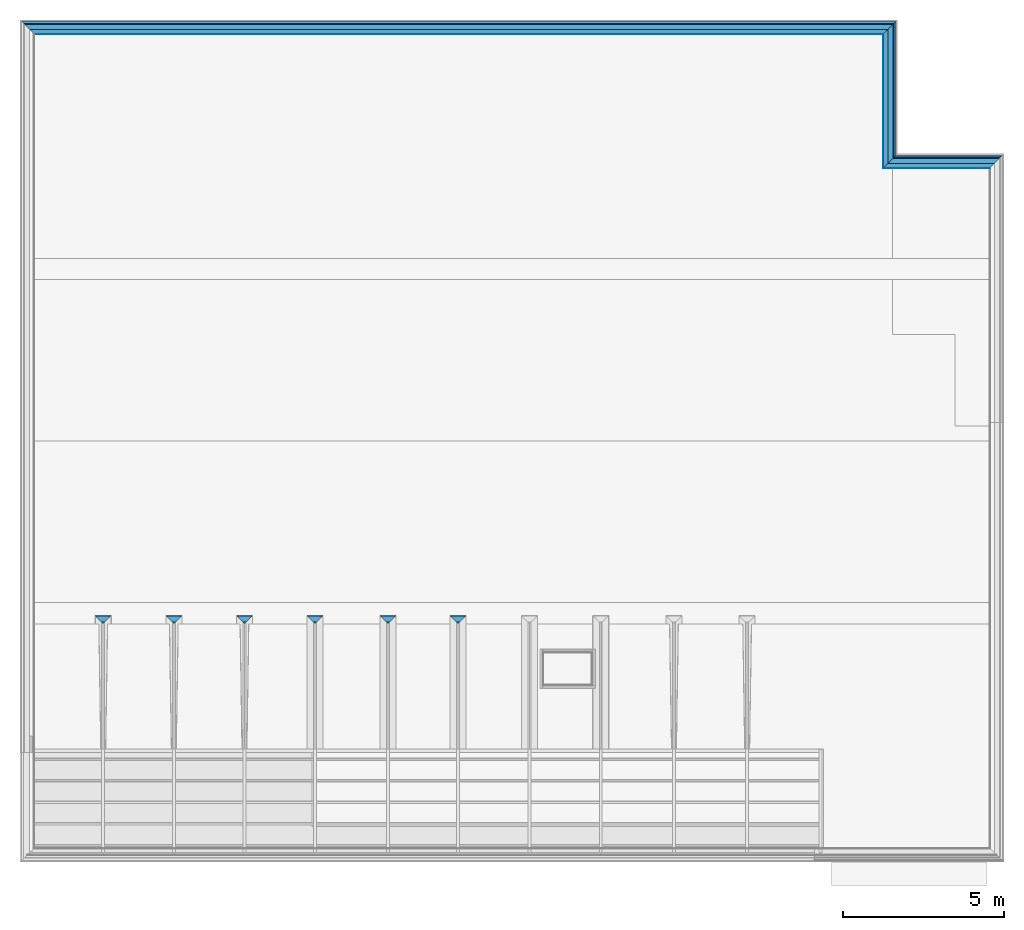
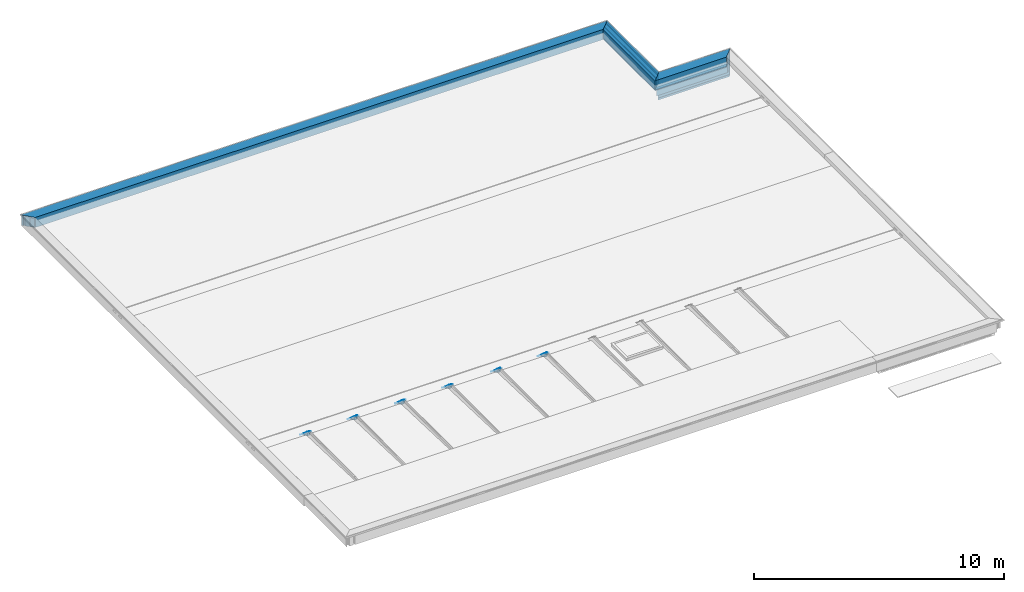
# One storey, part 12 of 16: 31 building element parts, 9 elements without a shape of their own.
"""IFC2X3 building model written with IfcOpenShell, lengths in millimetres."""

from ifc_helpers import new_model, entity, si_unit, converted_unit, derived_unit, money_unit, direction, frame, origin_with_axes, place, context, subcontext, project, spatial, faceted_brep, material, type_object, element, aggregate, save


model = new_model("IFC2X3")

# Units and contexts
model_context = context("Model", 3, precision=0.01, world=origin_with_axes(), true_north=direction((0.0, 1.0)))
body_context = subcontext(model_context, "Body", "Model", "MODEL_VIEW")
ifc_project = project(units=[si_unit("LENGTHUNIT", "METRE", prefix="MILLI"), si_unit("AREAUNIT", "SQUARE_METRE"), si_unit("VOLUMEUNIT", "CUBIC_METRE"), converted_unit("PLANEANGLEUNIT", "DEGREE", entity("IfcPlaneAngleMeasure", 0.0174532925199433), si_unit("PLANEANGLEUNIT", "RADIAN"), dimensions=[0, 0, 0, 0, 0, 0, 0]), money_unit("EUR"), converted_unit("TIMEUNIT", "Year", entity("IfcTimeMeasure", 31556926.0), si_unit("TIMEUNIT", "SECOND"), dimensions=[0, 0, 1, 0, 0, 0, 0]), si_unit("MASSUNIT", "GRAM", prefix="KILO"), si_unit("THERMODYNAMICTEMPERATUREUNIT", "DEGREE_CELSIUS"), si_unit("LUMINOUSINTENSITYUNIT", "LUMEN"), si_unit("ENERGYUNIT", "JOULE", prefix="MEGA"), derived_unit("THERMALCONDUCTANCEUNIT", [(si_unit("POWERUNIT", "WATT"), 1), (si_unit("LENGTHUNIT", "METRE"), -1), (si_unit("THERMODYNAMICTEMPERATUREUNIT", "KELVIN"), -1)]), derived_unit("SPECIFICHEATCAPACITYUNIT", [(si_unit("ENERGYUNIT", "JOULE"), 1), (si_unit("MASSUNIT", "GRAM", prefix="KILO"), -1), (si_unit("THERMODYNAMICTEMPERATUREUNIT", "KELVIN"), -1)]), derived_unit("MASSDENSITYUNIT", [(si_unit("MASSUNIT", "GRAM", prefix="KILO"), 1), (si_unit("VOLUMEUNIT", "CUBIC_METRE"), -1)])], contexts=[model_context])

# Site, building, storey
site_placement = place(None, origin_with_axes())
site = spatial("IfcSite", under=ifc_project, at=site_placement, Name="Site", CompositionType="ELEMENT")
building_placement = place(site_placement, origin_with_axes())
building = spatial("IfcBuilding", under=site, at=building_placement, Name="Naam gebouw", CompositionType="ELEMENT")
storey_placement = place(building_placement, frame((0.0, 0.0, 7820.0), z_axis=(0.0, 0.0, 1.0), x_axis=(1.0, 0.0, 0.0)))
storey = spatial("IfcBuildingStorey", under=building, at=storey_placement, Name="2e dakoverzicht", CompositionType="ELEMENT", Elevation=7820.0)

# Beam, building element parts
beam_type_1 = type_object("IfcBeamType", Name="47 IPE inpakken 250 x 203", PredefinedType="BEAM")
beam_1_placement = place(storey_placement, frame((8895.500000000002, 10810.00005527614, 269.9999999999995), z_axis=(0.0, 0.0, 1.0), x_axis=(0.0, 1.0, 0.0)))
beam_1 = element("IfcBeam", 1, at=beam_1_placement, inside=storey, type_object=beam_type_1, Name="_Regenwaterafvoer-x", ObjectType="BEAM")
ifc_material_1 = material(Name="47 waterdichte laag - bitumen")
building_element_part_1_placement = place(beam_1_placement, origin_with_axes())
building_element_part_1 = element("IfcBuildingElementPart", 2, at=building_element_part_1_placement, material=ifc_material_1, Name="47 waterdichte laag - bitumen", context=body_context, shape_type="Brep", body=[
    faceted_brep([(1.242640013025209, 92.24264001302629, 52.99999990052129), (-45.50000000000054, 45.50000000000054, 52.99999990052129), (1.242640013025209, -1.242640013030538, 52.99999990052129), (199.9999981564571, 290.9999981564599, -150.0000000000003), (2.34354757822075e-07, 91.00000023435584, 50.00000164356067), (-45.50000000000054, 45.50000000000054, 50.00000164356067), (204.2426399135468, 295.2426399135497, -150.0000000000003), (2.34354757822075e-07, -2.343600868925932e-07, 50.00000164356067), (199.9999981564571, -199.9999981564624, -150.0000000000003), (204.2426399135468, -204.2426399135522, -150.0000000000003)], [[[0, 1, 2]], [[3, 4, 5, 1, 0, 6]], [[1, 5, 7, 8, 9, 2]], [[6, 0, 2, 9]], [[4, 3, 8, 7]], [[5, 4, 7]], [[3, 6, 9, 8]]]),
])
ifc_material_2 = material(Name="Isolatie - Kunststof hard")
building_element_part_2_placement = place(beam_1_placement, origin_with_axes())
building_element_part_2 = element("IfcBuildingElementPart", 3, at=building_element_part_2_placement, material=ifc_material_2, Name="Isolatie - Kunststof hard", context=body_context, shape_type="Brep", body=[
    faceted_brep([(-45.50000000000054, 45.50000000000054, 50.00000000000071), (0.0, 91.00000000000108, 50.00000000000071), (199.999999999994, 290.9999999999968, -150.0000000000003), (0.0, 91.00000000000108, -150.0000000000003), (0.0, 91.00000000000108, 0.0), (-45.50000000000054, 45.50000000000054, 0.0), (0.0, 0.0, 50.00000000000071), (199.999999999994, -199.9999999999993, -150.0000000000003), (0.0, 0.0, -150.0000000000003), (0.0, 0.0, 0.0)], [[[0, 1, 2, 3, 4, 5]], [[1, 0, 6]], [[2, 1, 6, 7]], [[3, 2, 7, 8]], [[4, 3, 8, 9]], [[5, 4, 9]], [[0, 5, 9, 8, 7, 6]]]),
])
aggregate(beam_1, [building_element_part_1, building_element_part_2])

beam_type_2 = type_object("IfcBeamType", Name="47 Isoniq M metselwerk 443 x 509", PredefinedType="BEAM")
beam_2_placement = place(storey_placement, frame((0.0, 29175.0, 480.0000000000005), z_axis=(0.0, 0.0, 1.0), x_axis=(0.0, -1.0, 0.0)))
beam_2 = element("IfcBeam", 4, at=beam_2_placement, inside=storey, type_object=beam_type_2, Name="28_Balk-x", ObjectType="BEAM")
building_element_part_3_placement = place(beam_2_placement, origin_with_axes())
building_element_part_3 = element("IfcBuildingElementPart", 5, at=building_element_part_3_placement, material=ifc_material_1, Name="47 waterdichte laag - bitumen", context=body_context, shape_type="Brep", body=[
    faceted_brep([(-284.7348536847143, 26884.73485368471, 26.26365007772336), (-284.7348536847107, -284.7348536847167, 26.26365007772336), (-284.6578505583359, -284.6578505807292, 28.48044654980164), (-284.6578505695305, 26884.65785056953, 28.48044654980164), (155.0000023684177, 26444.99999763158, 10.98914888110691), (155.0000023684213, 155.0000023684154, 10.98914888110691), (158.0000036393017, 158.0000036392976, 13.88674958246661), (-262.1351685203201, -262.1351685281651, 28.48044654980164), (-262.1351685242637, 26862.13516852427, 28.48044654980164), (158.0000036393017, 26441.99999636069, 13.88674958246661)], [[[0, 1, 2, 3]], [[4, 5, 1, 0]], [[5, 6, 7, 2, 1]], [[2, 7, 8, 3]], [[4, 0, 3, 8, 9]], [[9, 6, 5, 4]], [[6, 9, 8, 7]]]),
])
ifc_material_3 = material(Name="Steen - Baksteen")
building_element_part_4_placement = place(beam_2_placement, origin_with_axes())
building_element_part_4 = element("IfcBuildingElementPart", 6, at=building_element_part_4_placement, material=ifc_material_3, Name="Steen - Baksteen", context=body_context, shape_type="Brep", body=[
    faceted_brep([(-179.9999999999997, 26779.99999999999, -480.0000000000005), (-179.9999999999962, -180.000000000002, -480.0000000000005), (-249.9999999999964, -250.0000000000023, -480.0000000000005), (-250.0, 26849.99999999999, -480.0000000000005), (-179.9999999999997, 26779.99999999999, 3.000000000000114), (-179.9999999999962, -180.000000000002, 3.000000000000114), (-249.9999999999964, -250.0000000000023, 3.000000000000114), (-250.0, 26849.99999999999, 3.000000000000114)], [[[0, 1, 2, 3]], [[4, 5, 1, 0]], [[1, 5, 6, 2]], [[3, 2, 6, 7]], [[7, 4, 0, 3]], [[7, 6, 5, 4]]]),
])
building_element_part_5_placement = place(beam_2_placement, origin_with_axes())
building_element_part_5 = element("IfcBuildingElementPart", 7, at=building_element_part_5_placement, material=ifc_material_1, Name="47 waterdichte laag - bitumen", context=body_context, shape_type="Brep", body=[
    faceted_brep([(154.9999999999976, 26444.99999999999, 10.989150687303), (155.0000031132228, 26444.99999688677, -6.99999645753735), (155.0000031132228, 155.0000031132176, -6.99999645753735), (155.0000000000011, 154.9999999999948, 10.989150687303), (157.9999999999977, 26442.0, 13.88675286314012), (157.9999999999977, 26442.0, -479.9999999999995), (154.9999999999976, 26444.99999999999, -479.9999999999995), (155.0000000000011, 154.9999999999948, -479.9999999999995), (158.0000000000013, 157.9999999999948, -479.9999999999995), (158.0000000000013, 157.9999999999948, 13.88675286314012)], [[[0, 1, 2, 3]], [[0, 4, 5, 6, 1]], [[1, 6, 7, 2]], [[3, 2, 7, 8, 9]], [[4, 0, 3, 9]], [[5, 4, 9, 8]], [[6, 5, 8, 7]]]),
])
ifc_material_4 = material(Name="Isolatie - Steenwol zacht")
building_element_part_6_placement = place(beam_2_placement, origin_with_axes())
building_element_part_6 = element("IfcBuildingElementPart", 8, at=building_element_part_6_placement, material=ifc_material_4, Name="Isolatie - Steenwol zacht", context=body_context, shape_type="Brep", body=[
    faceted_brep([(-145.0000000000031, 26744.99999999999, -9.998211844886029), (-145.0000000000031, 26744.99999999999, -479.9999999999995), (-144.9999999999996, -145.0000000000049, -479.9999999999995), (-144.9999999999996, -145.0000000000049, -9.998211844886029), (3.192859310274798e-07, 26599.99999968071, -9.998211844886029), (3.192859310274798e-07, 26599.99999968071, -479.9999999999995), (3.192894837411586e-07, 3.192829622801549e-07, -479.9999999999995), (3.192894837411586e-07, 3.192829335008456e-07, -9.998211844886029)], [[[0, 1, 2, 3]], [[0, 4, 5, 1]], [[1, 5, 6, 2]], [[3, 2, 6, 7]], [[4, 0, 3, 7]], [[5, 4, 7, 6]]]),
])
ifc_material_5 = material(Name="Isolatie - Glaswol hard")
building_element_part_7_placement = place(beam_2_placement, origin_with_axes())
building_element_part_7 = element("IfcBuildingElementPart", 9, at=building_element_part_7_placement, material=ifc_material_5, Name="Isolatie - Glaswol hard", context=body_context, shape_type="Brep", body=[
    faceted_brep([(139.9999984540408, 26460.00000154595, -48.00000315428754), (3.192859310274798e-07, 26599.99999968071, -48.00000315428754), (3.192894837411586e-07, 3.192829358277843e-07, -48.00000315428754), (139.9999984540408, 139.9999984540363, -48.00000315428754), (139.9999984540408, 26460.00000154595, -442.0000016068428), (3.192859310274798e-07, 26599.99999968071, -442.0000016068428), (3.192894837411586e-07, 3.192829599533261e-07, -442.0000016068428), (139.9999984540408, 139.9999984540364, -442.0000016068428)], [[[0, 1, 2, 3]], [[0, 4, 5, 1]], [[1, 5, 6, 2]], [[3, 2, 6, 7]], [[4, 0, 3, 7]], [[5, 4, 7, 6]]]),
])
ifc_material_6 = material(Name="Hout C")
building_element_part_8_placement = place(beam_2_placement, origin_with_axes())
building_element_part_8 = element("IfcBuildingElementPart", 10, at=building_element_part_8_placement, material=ifc_material_6, Name="Hout C", context=body_context, shape_type="Brep", body=[
    faceted_brep([(0.0, 26599.99999999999, -441.9999999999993), (0.0, 26599.99999999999, -479.9999999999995), (0.0, 0.0, -479.9999999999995), (0.0, 0.0, -441.9999999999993), (139.999999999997, 26460.0, -441.9999999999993), (139.999999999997, 26460.0, -479.9999999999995), (140.0000000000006, 139.9999999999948, -479.9999999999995), (140.0000000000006, 139.9999999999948, -441.9999999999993)], [[[0, 1, 2, 3]], [[0, 4, 5, 1]], [[1, 5, 6, 2]], [[3, 2, 6, 7]], [[4, 0, 3, 7]], [[5, 4, 7, 6]]]),
])
aggregate(beam_2, [building_element_part_3, building_element_part_4, building_element_part_5, building_element_part_6, building_element_part_7, building_element_part_8])

beam_3_placement = place(storey_placement, frame((26600.0, 29175.0, 480.0000000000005), z_axis=(0.0, 0.0, 1.0), x_axis=(-1.0, 0.0, 0.0)))
beam_3 = element("IfcBeam", 11, at=beam_3_placement, inside=storey, type_object=beam_type_2, Name="28_Balk-x", ObjectType="BEAM")
building_element_part_9_placement = place(beam_3_placement, origin_with_axes())
building_element_part_9 = element("IfcBuildingElementPart", 12, at=building_element_part_9_placement, material=ifc_material_1, Name="47 waterdichte laag - bitumen", context=body_context, shape_type="Brep", body=[
    faceted_brep([(-262.1351685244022, -262.1351685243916, 28.48044654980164), (-284.657850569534, -284.657850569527, 28.48044654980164), (-284.7348536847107, -284.7348536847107, 26.26365007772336), (155.0000023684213, 155.0000023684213, 10.98914888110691), (158.0000036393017, 158.0000036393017, 13.88674958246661), (-284.6578477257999, 3865.365932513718, 28.48044654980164), (-262.1351657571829, 3887.888614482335, 28.48044654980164), (-284.7348536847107, 3865.288932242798, 26.26365007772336), (155.0000023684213, 4305.02378529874, 10.98914888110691), (158.0000036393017, 4308.023786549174, 13.88674958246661)], [[[0, 1, 2, 3, 4]], [[5, 1, 0, 6]], [[1, 5, 7, 2]], [[8, 3, 2, 7]], [[9, 4, 3, 8]], [[6, 0, 4, 9]], [[5, 6, 9, 8, 7]]]),
])
building_element_part_10_placement = place(beam_3_placement, origin_with_axes())
building_element_part_10 = element("IfcBuildingElementPart", 13, at=building_element_part_10_placement, material=ifc_material_3, Name="Steen - Baksteen", context=body_context, shape_type="Brep", body=[
    faceted_brep([(-179.9999999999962, 3970.023785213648, -480.0000000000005), (-179.9999999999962, -179.9999999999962, -480.0000000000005), (-249.9999999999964, -249.9999999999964, -480.0000000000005), (-249.9999999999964, 3900.02378569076, -480.0000000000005), (-179.9999999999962, 3970.023785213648, 3.000000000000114), (-179.9999999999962, -179.9999999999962, 3.000000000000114), (-249.9999999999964, -249.9999999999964, 3.000000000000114), (-249.9999999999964, 3900.02378569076, 3.000000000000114)], [[[0, 1, 2, 3]], [[4, 5, 1, 0]], [[1, 5, 6, 2]], [[3, 2, 6, 7]], [[7, 4, 0, 3]], [[7, 6, 5, 4]]]),
])
building_element_part_11_placement = place(beam_3_placement, origin_with_axes())
building_element_part_11 = element("IfcBuildingElementPart", 14, at=building_element_part_11_placement, material=ifc_material_1, Name="47 waterdichte laag - bitumen", context=body_context, shape_type="Brep", body=[
    faceted_brep([(155.0000000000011, 4305.02378293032, 10.989150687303), (155.0000031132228, 4305.023786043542, -6.99999645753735), (155.0000031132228, 155.0000031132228, -6.99999645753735), (155.0000000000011, 155.0000000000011, 10.989150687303), (157.9999999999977, 4308.023782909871, 13.88675286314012), (157.9999999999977, 4308.023782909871, -479.9999999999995), (155.0000000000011, 4305.02378293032, -479.9999999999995), (155.0000000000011, 155.0000000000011, -479.9999999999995), (158.0000000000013, 158.0000000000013, -479.9999999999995), (158.0000000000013, 158.0000000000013, 13.88675286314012)], [[[0, 1, 2, 3]], [[0, 4, 5, 6, 1]], [[1, 6, 7, 2]], [[3, 2, 7, 8, 9]], [[4, 0, 3, 9]], [[5, 4, 9, 8]], [[6, 5, 8, 7]]]),
])
building_element_part_12_placement = place(beam_3_placement, origin_with_axes())
building_element_part_12 = element("IfcBuildingElementPart", 15, at=building_element_part_12_placement, material=ifc_material_5, Name="Isolatie - Glaswol hard", context=body_context, shape_type="Brep", body=[
    faceted_brep([(139.9999984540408, 4290.0237814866, -48.00000315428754), (3.192859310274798e-07, 4150.023784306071, -48.00000315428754), (3.192894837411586e-07, 3.192894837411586e-07, -48.00000315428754), (139.9999984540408, 139.9999984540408, -48.00000315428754), (139.9999984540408, 4290.0237814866, -442.0000016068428), (3.192859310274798e-07, 4150.023784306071, -442.0000016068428), (3.192894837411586e-07, 3.192894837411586e-07, -442.0000016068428), (139.9999984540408, 139.9999984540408, -442.0000016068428)], [[[0, 1, 2, 3]], [[0, 4, 5, 1]], [[1, 5, 6, 2]], [[3, 2, 6, 7]], [[4, 0, 3, 7]], [[5, 4, 7, 6]]]),
])
building_element_part_13_placement = place(beam_3_placement, origin_with_axes())
building_element_part_13 = element("IfcBuildingElementPart", 16, at=building_element_part_13_placement, material=ifc_material_4, Name="Isolatie - Steenwol zacht", context=body_context, shape_type="Brep", body=[
    faceted_brep([(-144.9999999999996, 4005.023784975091, -9.998211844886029), (-144.9999999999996, 4005.023784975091, -479.9999999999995), (-144.9999999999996, -144.9999999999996, -479.9999999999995), (-144.9999999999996, -144.9999999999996, -9.998211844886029), (3.192859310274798e-07, 4150.023784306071, -9.998211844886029), (3.192859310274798e-07, 4150.023784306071, -479.9999999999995), (3.192894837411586e-07, 3.192894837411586e-07, -479.9999999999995), (3.192894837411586e-07, 3.192894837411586e-07, -9.998211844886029)], [[[0, 1, 2, 3]], [[0, 4, 5, 1]], [[1, 5, 6, 2]], [[3, 2, 6, 7]], [[4, 0, 3, 7]], [[5, 4, 7, 6]]]),
])
building_element_part_14_placement = place(beam_3_placement, origin_with_axes())
building_element_part_14 = element("IfcBuildingElementPart", 17, at=building_element_part_14_placement, material=ifc_material_6, Name="Hout C", context=body_context, shape_type="Brep", body=[
    faceted_brep([(0.0, 4150.023783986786, -441.9999999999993), (0.0, 4150.023783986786, -479.9999999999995), (0.0, 0.0, -479.9999999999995), (0.0, 0.0, -441.9999999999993), (140.0000000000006, 4290.02378303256, -441.9999999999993), (140.0000000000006, 4290.02378303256, -479.9999999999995), (140.0000000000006, 140.0000000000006, -479.9999999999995), (140.0000000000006, 140.0000000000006, -441.9999999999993)], [[[0, 1, 2, 3]], [[0, 4, 5, 1]], [[1, 5, 6, 2]], [[3, 2, 6, 7]], [[4, 0, 3, 7]], [[5, 4, 7, 6]]]),
])
aggregate(beam_3, [building_element_part_9, building_element_part_10, building_element_part_11, building_element_part_12, building_element_part_13, building_element_part_14])

beam_type_3 = type_object("IfcBeamType", Name="47 Isoniq M metselwerk overstek 443 x 1282", PredefinedType="BEAM")
beam_4_placement = place(storey_placement, frame((26600.0, 25024.97621406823, 480.0000000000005), z_axis=(0.0, 0.0, 1.0), x_axis=(0.0, -1.0, 0.0)))
beam_4 = element("IfcBeam", 18, at=beam_4_placement, inside=storey, type_object=beam_type_3, Name="28_Balk-x", ObjectType="BEAM")
building_element_part_15_placement = place(beam_4_placement, origin_with_axes())
building_element_part_15 = element("IfcBuildingElementPart", 19, at=building_element_part_15_placement, material=ifc_material_1, Name="47 waterdichte laag - bitumen", context=body_context, shape_type="Brep", body=[
    faceted_brep([(-284.7348536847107, 284.7348536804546, 26.26365007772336), (-284.6578534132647, 284.6578477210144, 28.48044654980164), (-284.6578534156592, 3584.657847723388, 28.48044654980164), (-284.7348536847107, 3584.734853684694, 26.26365007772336), (158.0000036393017, -158.0000066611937, 13.88674958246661), (-262.1351712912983, 262.135165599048, 28.48044654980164), (155.0000023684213, -155.0000053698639, 10.98914888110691), (-262.1351713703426, 3562.135165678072, 28.48044654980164), (158.0000036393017, 3141.999996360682, 13.88674958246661), (155.0000023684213, 3144.999997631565, 10.98914888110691)], [[[0, 1, 2, 3]], [[4, 5, 1, 0, 6]], [[5, 7, 2, 1]], [[3, 2, 7, 8, 9]], [[9, 6, 0, 3]], [[8, 7, 5, 4]], [[8, 4, 6, 9]]]),
])
building_element_part_16_placement = place(beam_4_placement, origin_with_axes())
building_element_part_16 = element("IfcBuildingElementPart", 20, at=building_element_part_16_placement, material=ifc_material_1, Name="47 waterdichte laag - bitumen", context=body_context, shape_type="Brep", body=[
    faceted_brep([(155.0000000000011, 3144.999999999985, 10.989150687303), (155.0000027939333, 3144.99999720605, -6.99999645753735), (155.0000027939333, -155.0000057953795, -6.99999645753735), (155.0000000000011, -155.0000030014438, 10.989150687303), (158.0000000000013, 3141.999999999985, 13.88675286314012), (158.0000000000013, 3141.999999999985, -479.9999999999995), (155.0000000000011, 3144.999999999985, -479.9999999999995), (155.0000000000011, -155.0000030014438, -479.9999999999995), (158.0000000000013, -158.0000030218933, -479.9999999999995), (158.0000000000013, -158.0000030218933, 13.88675286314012)], [[[0, 1, 2, 3]], [[0, 4, 5, 6, 1]], [[1, 6, 7, 2]], [[3, 2, 7, 8, 9]], [[4, 0, 3, 9]], [[5, 4, 9, 8]], [[6, 5, 8, 7]]]),
])
building_element_part_17_placement = place(beam_4_placement, origin_with_axes())
building_element_part_17 = element("IfcBuildingElementPart", 21, at=building_element_part_17_placement, material=ifc_material_5, Name="Isolatie - Glaswol hard", context=body_context, shape_type="Brep", body=[
    faceted_brep([(-144.999999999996, 3444.999999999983, -9.998211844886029), (-144.999999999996, 3444.999999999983, -885.0000000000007), (-144.999999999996, 144.9999990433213, -885.0000000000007), (-144.999999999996, 144.9999990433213, -9.998211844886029), (-1.701266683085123e-06, 3300.00000170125, -9.998211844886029), (-1.701266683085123e-06, 3300.00000170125, -479.9999993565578), (-1.701266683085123e-06, 3300.00000170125, -885.0000000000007), (-1.701266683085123e-06, -2.437126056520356e-07, -885.0000000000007), (-1.701266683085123e-06, -2.437126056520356e-07, -479.9999993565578), (-1.701266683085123e-06, -2.437126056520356e-07, -9.998211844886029)], [[[0, 1, 2, 3]], [[0, 4, 5, 6, 1]], [[1, 6, 7, 2]], [[3, 2, 7, 8, 9]], [[4, 0, 3, 9]], [[5, 4, 9, 8]], [[6, 5, 8, 7]]]),
])
building_element_part_18_placement = place(beam_4_placement, origin_with_axes())
building_element_part_18 = element("IfcBuildingElementPart", 22, at=building_element_part_18_placement, material=ifc_material_5, Name="Isolatie - Glaswol hard", context=body_context, shape_type="Brep", body=[
    faceted_brep([(0.0, 3299.999999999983, -441.999999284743), (139.9999985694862, 3160.000001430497, -441.999999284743), (139.9999985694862, -140.0000014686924, -441.999999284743), (0.0, -1.944979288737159e-06, -441.999999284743), (0.0, 3299.999999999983, -48.00000000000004), (139.9999985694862, 3160.000001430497, -48.00000000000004), (139.9999985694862, -140.0000014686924, -48.00000000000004), (0.0, -1.944979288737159e-06, -48.00000000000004)], [[[0, 1, 2, 3]], [[0, 4, 5, 1]], [[1, 5, 6, 2]], [[3, 2, 6, 7]], [[4, 0, 3, 7]], [[5, 4, 7, 6]]]),
])
building_element_part_19_placement = place(beam_4_placement, origin_with_axes())
building_element_part_19 = element("IfcBuildingElementPart", 23, at=building_element_part_19_placement, material=ifc_material_3, Name="Steen - Baksteen", context=body_context, shape_type="Brep", body=[
    faceted_brep([(-249.9999999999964, 3549.999999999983, 3.000000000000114), (-249.9999999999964, 249.999999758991, 3.000000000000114), (-180.0000023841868, 180.0000016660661, 3.000000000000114), (-180.0000023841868, 3480.00000238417, 3.000000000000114), (-249.9999999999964, 3549.999999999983, -1249.999994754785), (-249.9999999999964, 249.999999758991, -1249.999994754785), (-230.0000087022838, 230.0000083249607, -1249.999994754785), (-180.0000023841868, 180.0000016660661, -1249.999994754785), (-180.0000023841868, 180.0000016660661, -1150.658219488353), (-180.0000023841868, 3480.00000238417, -1150.658219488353), (-230.0000087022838, 3530.000008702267, -1249.999994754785), (-180.0000023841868, 3480.00000238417, -1249.999994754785)], [[[0, 1, 2, 3]], [[4, 5, 1, 0]], [[6, 7, 8, 2, 1, 5]], [[3, 2, 8, 9]], [[10, 4, 0, 3, 9, 11]], [[10, 6, 5, 4]], [[11, 7, 6, 10]], [[9, 8, 7, 11]]]),
])
ifc_material_7 = material(Name="Metaal - Staal C")
building_element_part_20_placement = place(beam_4_placement, origin_with_axes())
building_element_part_20 = element("IfcBuildingElementPart", 24, at=building_element_part_20_placement, material=ifc_material_7, Name="Metaal - Staal C", context=body_context, shape_type="Brep", body=[
    faceted_brep([(-229.9999999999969, 3529.99999999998, -1252.999999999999), (-176.999999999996, 3476.999999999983, -1252.999999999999), (-176.999999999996, 176.9999992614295, -1252.999999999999), (-229.9999999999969, 229.9999996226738, -1252.999999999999), (-229.9999999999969, 3529.99999999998, -1249.999999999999), (-179.9999999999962, 3479.999999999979, -1249.999999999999), (-179.9999999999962, 3479.999999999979, -1150.658228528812), (-163.4534495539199, 3463.453449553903, -1141.105073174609), (-161.9534495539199, 3461.953449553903, -1143.703149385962), (-176.999999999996, 3476.999999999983, -1152.999999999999), (-176.999999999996, 176.9999992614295, -1152.999999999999), (-161.9534495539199, 161.9534487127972, -1143.703149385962), (-163.4534495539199, 163.4534487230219, -1141.105073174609), (-179.9999999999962, 179.999999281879, -1150.658228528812), (-179.9999999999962, 179.999999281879, -1249.999999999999), (-229.9999999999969, 229.9999996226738, -1249.999999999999)], [[[0, 1, 2, 3]], [[0, 4, 5, 6, 7, 8, 9, 1]], [[1, 9, 10, 2]], [[3, 2, 10, 11, 12, 13, 14, 15]], [[4, 0, 3, 15]], [[5, 4, 15, 14]], [[6, 5, 14, 13]], [[7, 6, 13, 12]], [[8, 7, 12, 11]], [[9, 8, 11, 10]]]),
])
building_element_part_21_placement = place(beam_4_placement, origin_with_axes())
building_element_part_21 = element("IfcBuildingElementPart", 25, at=building_element_part_21_placement, material=ifc_material_6, Name="Hout C", context=body_context, shape_type="Brep", body=[
    faceted_brep([(0.0, 3299.999999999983, -441.9999999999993), (0.0, 3299.999999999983, -479.9999999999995), (0.0, -1.944979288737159e-06, -479.9999999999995), (0.0, -1.944979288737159e-06, -441.9999999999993), (140.0000000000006, 3159.999999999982, -441.9999999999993), (140.0000000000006, 3159.999999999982, -479.9999999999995), (140.0000000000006, -140.0000028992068, -479.9999999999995), (140.0000000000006, -140.0000028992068, -441.9999999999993)], [[[0, 1, 2, 3]], [[0, 4, 5, 1]], [[1, 5, 6, 2]], [[3, 2, 6, 7]], [[4, 0, 3, 7]], [[5, 4, 7, 6]]]),
])
aggregate(beam_4, [building_element_part_15, building_element_part_16, building_element_part_17, building_element_part_18, building_element_part_19, building_element_part_20, building_element_part_21])

beam_5_placement = place(storey_placement, frame((13320.49971228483, 10810.00005527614, 269.9999999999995), z_axis=(0.0, 0.0, 1.0), x_axis=(0.0, 1.0, 0.0)))
beam_5 = element("IfcBeam", 26, at=beam_5_placement, inside=storey, type_object=beam_type_1, Name="_Regenwaterafvoer-x", ObjectType="BEAM")
building_element_part_22_placement = place(beam_5_placement, origin_with_axes())
building_element_part_22 = element("IfcBuildingElementPart", 27, at=building_element_part_22_placement, material=ifc_material_1, Name="47 waterdichte laag - bitumen", context=body_context, shape_type="Brep", body=[
    faceted_brep([(1.242640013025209, 92.24264001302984, 52.99999990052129), (-45.50000000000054, 45.50000000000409, 52.99999990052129), (1.242640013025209, -1.242640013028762, 52.99999990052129), (199.9999981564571, 290.9999981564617, -150.0000000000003), (2.34354757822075e-07, 91.00000023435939, 50.00000164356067), (-45.50000000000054, 45.50000000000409, 50.00000164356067), (204.2426399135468, 295.2426399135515, -150.0000000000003), (2.34354757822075e-07, -2.343583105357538e-07, 50.00000164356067), (199.9999981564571, -199.9999981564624, -150.0000000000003), (204.2426399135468, -204.2426399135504, -150.0000000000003)], [[[0, 1, 2]], [[3, 4, 5, 1, 0, 6]], [[1, 5, 7, 8, 9, 2]], [[6, 0, 2, 9]], [[4, 3, 8, 7]], [[5, 4, 7]], [[3, 6, 9, 8]]]),
])
building_element_part_23_placement = place(beam_5_placement, origin_with_axes())
building_element_part_23 = element("IfcBuildingElementPart", 28, at=building_element_part_23_placement, material=ifc_material_2, Name="Isolatie - Kunststof hard", context=body_context, shape_type="Brep", body=[
    faceted_brep([(-45.50000000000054, 45.50000000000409, 50.00000000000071), (0.0, 91.00000000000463, 50.00000000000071), (199.999999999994, 290.9999999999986, -150.0000000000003), (0.0, 91.00000000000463, -150.0000000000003), (0.0, 91.00000000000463, 0.0), (-45.50000000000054, 45.50000000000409, 0.0), (0.0, 0.0, 50.00000000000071), (199.999999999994, -199.9999999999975, -150.0000000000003), (0.0, 0.0, -150.0000000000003), (0.0, 0.0, 0.0)], [[[0, 1, 2, 3, 4, 5]], [[1, 0, 6]], [[2, 1, 6, 7]], [[3, 2, 7, 8]], [[4, 3, 8, 9]], [[5, 4, 9]], [[0, 5, 9, 8, 7, 6]]]),
])
aggregate(beam_5, [building_element_part_22, building_element_part_23])

# Beam, building element part
beam_6_placement = place(storey_placement, frame((2332.999999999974, 10810.00005527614, 269.9999999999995), z_axis=(0.0, 0.0, 1.0), x_axis=(0.0, 1.0, 0.0)))
beam_6 = element("IfcBeam", 29, at=beam_6_placement, inside=storey, type_object=beam_type_1, Name="_Regenwaterafvoer-x", ObjectType="BEAM")
building_element_part_24_placement = place(beam_6_placement, origin_with_axes())
building_element_part_24 = element("IfcBuildingElementPart", 30, at=building_element_part_24_placement, material=ifc_material_1, Name="47 waterdichte laag - bitumen", context=body_context, shape_type="Brep", body=[
    faceted_brep([(1.242640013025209, 92.24264001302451, 52.99999990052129), (-45.50000000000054, 45.49999999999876, 52.99999990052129), (1.242640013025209, -1.242640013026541, 52.99999990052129), (199.9999981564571, 290.9999981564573, -150.0000000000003), (2.34354757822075e-07, 91.00000023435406, 50.00000164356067), (-45.50000000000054, 45.49999999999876, 50.00000164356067), (204.2426399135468, 295.2426399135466, -150.0000000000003), (2.34354757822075e-07, -2.343560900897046e-07, 50.00000164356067), (199.9999981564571, -199.9999981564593, -150.0000000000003), (204.2426399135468, -204.2426399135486, -150.0000000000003)], [[[0, 1, 2]], [[3, 4, 5, 1, 0, 6]], [[1, 5, 7, 8, 9, 2]], [[6, 0, 2, 9]], [[4, 3, 8, 7]], [[5, 4, 7]], [[3, 6, 9, 8]]]),
])

# Beam, building element parts
beam_7_placement = place(storey_placement, frame((11153.49985614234, 10810.00005527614, 269.9999999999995), z_axis=(0.0, 0.0, 1.0), x_axis=(0.0, 1.0, 0.0)))
beam_7 = element("IfcBeam", 31, at=beam_7_placement, inside=storey, type_object=beam_type_1, Name="_Regenwaterafvoer-x", ObjectType="BEAM")
building_element_part_25_placement = place(beam_7_placement, origin_with_axes())
building_element_part_25 = element("IfcBuildingElementPart", 32, at=building_element_part_25_placement, material=ifc_material_1, Name="47 waterdichte laag - bitumen", context=body_context, shape_type="Brep", body=[
    faceted_brep([(199.9999981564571, 290.9999981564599, -150.0000000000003), (2.34354757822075e-07, 91.00000023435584, 50.00000164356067), (-45.50000000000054, 45.50000000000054, 50.00000164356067), (-45.50000000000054, 45.50000000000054, 52.99999990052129), (1.242640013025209, 92.24264001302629, 52.99999990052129), (204.2426399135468, 295.2426399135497, -150.0000000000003), (199.9999981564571, -199.9999981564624, -150.0000000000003), (2.34354757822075e-07, -2.343583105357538e-07, 50.00000164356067), (204.2426399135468, -204.2426399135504, -150.0000000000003), (1.242640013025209, -1.242640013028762, 52.99999990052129)], [[[0, 1, 2, 3, 4, 5]], [[1, 0, 6, 7]], [[2, 1, 7]], [[3, 2, 7, 6, 8, 9]], [[4, 3, 9]], [[5, 4, 9, 8]], [[0, 5, 8, 6]]]),
])
building_element_part_26_placement = place(beam_7_placement, origin_with_axes())
building_element_part_26 = element("IfcBuildingElementPart", 33, at=building_element_part_26_placement, material=ifc_material_2, Name="Isolatie - Kunststof hard", context=body_context, shape_type="Brep", body=[
    faceted_brep([(-45.50000000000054, 45.50000000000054, 50.00000000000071), (0.0, 91.00000000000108, 50.00000000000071), (199.999999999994, 290.9999999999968, -150.0000000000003), (0.0, 91.00000000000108, -150.0000000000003), (0.0, 91.00000000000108, 0.0), (-45.50000000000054, 45.50000000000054, 0.0), (0.0, 0.0, 50.00000000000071), (199.999999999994, -199.9999999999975, -150.0000000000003), (0.0, 0.0, -150.0000000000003), (0.0, 0.0, 0.0)], [[[0, 1, 2, 3, 4, 5]], [[1, 0, 6]], [[2, 1, 6, 7]], [[3, 2, 7, 8]], [[4, 3, 8, 9]], [[5, 4, 9]], [[0, 5, 9, 8, 7, 6]]]),
])
aggregate(beam_7, [building_element_part_25, building_element_part_26])

# Building element part
building_element_part_27_placement = place(beam_6_placement, origin_with_axes())
building_element_part_27 = element("IfcBuildingElementPart", 34, at=building_element_part_27_placement, material=ifc_material_2, Name="Isolatie - Kunststof hard", context=body_context, shape_type="Brep", body=[
    faceted_brep([(-45.50000000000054, 45.49999999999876, 50.00000000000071), (0.0, 90.9999999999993, 50.00000000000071), (199.999999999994, 290.9999999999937, -150.0000000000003), (0.0, 90.9999999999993, -150.0000000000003), (0.0, 90.9999999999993, 0.0), (-45.50000000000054, 45.49999999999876, 0.0), (0.0, 0.0, 50.00000000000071), (199.999999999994, -199.9999999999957, -150.0000000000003), (0.0, 0.0, -150.0000000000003), (0.0, 0.0, 0.0)], [[[0, 1, 2, 3, 4, 5]], [[1, 0, 6]], [[2, 1, 6, 7]], [[3, 2, 7, 8]], [[4, 3, 8, 9]], [[5, 4, 9]], [[0, 5, 9, 8, 7, 6]]]),
])

aggregate(beam_6, [building_element_part_24, building_element_part_27])

# Beam, building element parts
beam_8_placement = place(storey_placement, frame((6707.999999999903, 10810.00005527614, 269.9999999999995), z_axis=(0.0, 0.0, 1.0), x_axis=(0.0, 1.0, 0.0)))
beam_8 = element("IfcBeam", 35, at=beam_8_placement, inside=storey, type_object=beam_type_1, Name="_Regenwaterafvoer-x", ObjectType="BEAM")
building_element_part_28_placement = place(beam_8_placement, origin_with_axes())
building_element_part_28 = element("IfcBuildingElementPart", 36, at=building_element_part_28_placement, material=ifc_material_1, Name="47 waterdichte laag - bitumen", context=body_context, shape_type="Brep", body=[
    faceted_brep([(1.242640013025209, 92.24264001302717, 52.99999990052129), (-45.50000000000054, 45.50000000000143, 52.99999990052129), (1.242640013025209, -1.242640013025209, 52.99999990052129), (199.9999981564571, 290.9999981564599, -150.0000000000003), (2.34354757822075e-07, 91.00000023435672, 50.00000164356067), (-45.50000000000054, 45.50000000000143, 50.00000164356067), (204.2426399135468, 295.2426399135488, -150.0000000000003), (2.34354757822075e-07, -2.34354757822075e-07, 50.00000164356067), (199.9999981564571, -199.999998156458, -150.0000000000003), (204.2426399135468, -204.2426399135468, -150.0000000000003)], [[[0, 1, 2]], [[3, 4, 5, 1, 0, 6]], [[1, 5, 7, 8, 9, 2]], [[6, 0, 2, 9]], [[4, 3, 8, 7]], [[5, 4, 7]], [[3, 6, 9, 8]]]),
])
building_element_part_29_placement = place(beam_8_placement, origin_with_axes())
building_element_part_29 = element("IfcBuildingElementPart", 37, at=building_element_part_29_placement, material=ifc_material_2, Name="Isolatie - Kunststof hard", context=body_context, shape_type="Brep", body=[
    faceted_brep([(-45.50000000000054, 45.50000000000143, 50.00000000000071), (0.0, 91.00000000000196, 50.00000000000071), (199.999999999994, 290.9999999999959, -150.0000000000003), (0.0, 91.00000000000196, -150.0000000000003), (0.0, 91.00000000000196, 0.0), (-45.50000000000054, 45.50000000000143, 0.0), (0.0, 0.0, 50.00000000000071), (199.999999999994, -199.999999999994, -150.0000000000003), (0.0, 0.0, -150.0000000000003), (0.0, 0.0, 0.0)], [[[0, 1, 2, 3, 4, 5]], [[1, 0, 6]], [[2, 1, 6, 7]], [[3, 2, 7, 8]], [[4, 3, 8, 9]], [[5, 4, 9]], [[0, 5, 9, 8, 7, 6]]]),
])
aggregate(beam_8, [building_element_part_28, building_element_part_29])

beam_9_placement = place(storey_placement, frame((4520.500000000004, 10810.00005527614, 269.9999999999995), z_axis=(0.0, 0.0, 1.0), x_axis=(0.0, 1.0, 0.0)))
beam_9 = element("IfcBeam", 38, at=beam_9_placement, inside=storey, type_object=beam_type_1, Name="_Regenwaterafvoer-x", ObjectType="BEAM")
building_element_part_30_placement = place(beam_9_placement, origin_with_axes())
building_element_part_30 = element("IfcBuildingElementPart", 39, at=building_element_part_30_placement, material=ifc_material_1, Name="47 waterdichte laag - bitumen", context=body_context, shape_type="Brep", body=[
    faceted_brep([(1.242640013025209, 92.24264001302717, 52.99999990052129), (-45.50000000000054, 45.50000000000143, 52.99999990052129), (1.242640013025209, -1.242640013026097, 52.99999990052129), (199.9999981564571, 290.9999981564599, -150.0000000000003), (2.34354757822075e-07, 91.00000023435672, 50.00000164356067), (-45.50000000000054, 45.50000000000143, 50.00000164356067), (204.2426399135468, 295.2426399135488, -150.0000000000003), (2.34354757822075e-07, -2.343565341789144e-07, 50.00000164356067), (199.9999981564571, -199.9999981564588, -150.0000000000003), (204.2426399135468, -204.2426399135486, -150.0000000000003)], [[[0, 1, 2]], [[3, 4, 5, 1, 0, 6]], [[1, 5, 7, 8, 9, 2]], [[6, 0, 2, 9]], [[4, 3, 8, 7]], [[5, 4, 7]], [[3, 6, 9, 8]]]),
])
building_element_part_31_placement = place(beam_9_placement, origin_with_axes())
building_element_part_31 = element("IfcBuildingElementPart", 40, at=building_element_part_31_placement, material=ifc_material_2, Name="Isolatie - Kunststof hard", context=body_context, shape_type="Brep", body=[
    faceted_brep([(-45.50000000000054, 45.50000000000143, 50.00000000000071), (0.0, 91.00000000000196, 50.00000000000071), (199.999999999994, 290.9999999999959, -150.0000000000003), (0.0, 91.00000000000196, -150.0000000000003), (0.0, 91.00000000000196, 0.0), (-45.50000000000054, 45.50000000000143, 0.0), (0.0, 0.0, 50.00000000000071), (199.999999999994, -199.9999999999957, -150.0000000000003), (0.0, 0.0, -150.0000000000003), (0.0, 0.0, 0.0)], [[[0, 1, 2, 3, 4, 5]], [[1, 0, 6]], [[2, 1, 6, 7]], [[3, 2, 7, 8]], [[4, 3, 8, 9]], [[5, 4, 9]], [[0, 5, 9, 8, 7, 6]]]),
])
aggregate(beam_9, [building_element_part_30, building_element_part_31])

save(model, "model.ifc")
